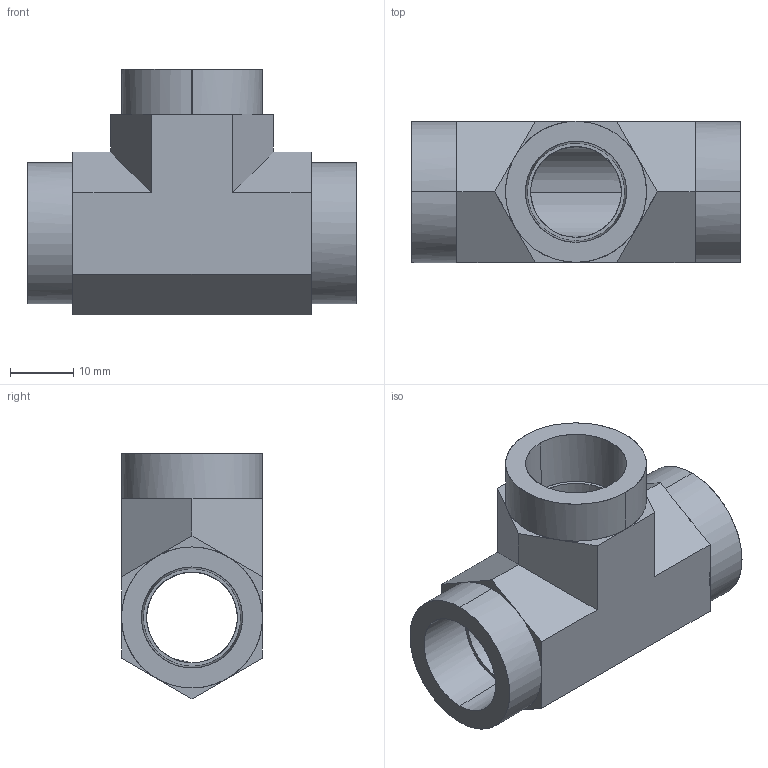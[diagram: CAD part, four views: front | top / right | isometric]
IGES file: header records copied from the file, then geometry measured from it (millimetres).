
Start section:  PTC IGES file: fz-1612.igs
Global section: file name: fz-1612.igs; native system: Pro/ENGINEER by Parametric Technology Corporation; preprocessor: 2010040; author: chad.steele; organization: Unknown; date: 20110824.093654; units: inch
Bounding box: 51.82 x 22.23 x 38.74 mm (x, y, z)
Surface area: 8635.3 mm2 (no closed solid volume)
Topology: 0 solids, 0 shells, 52 faces, 244 edges, 244 vertices
Faces by surface type: bspline 36, revolution 16
